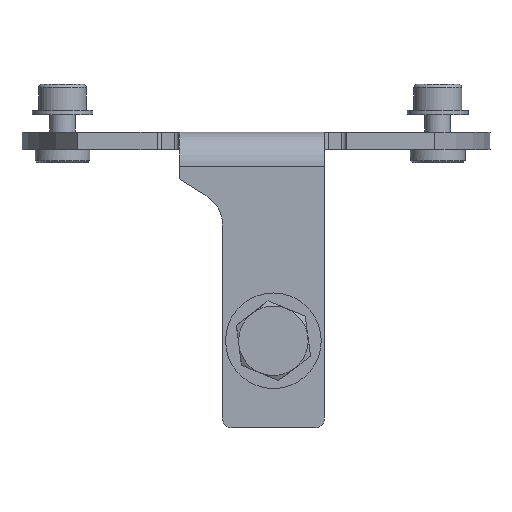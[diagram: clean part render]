
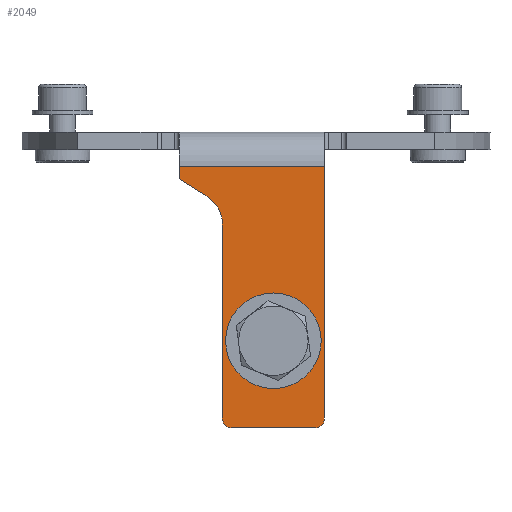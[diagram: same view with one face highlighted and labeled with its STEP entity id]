
A CAD part, left-side view. The second image highlights one B-rep face of the part: STEP entity #2049.
In plain terms, the highlighted planar face has unit normal (-1, 0, 0) as drawn and (0, 0, -1) by its records, which use the part's own axes.
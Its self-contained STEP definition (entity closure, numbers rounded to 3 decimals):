
#1436=LINE('',#7666,#1732);
#1437=LINE('',#7671,#1733);
#1438=LINE('',#7673,#1734);
#1439=LINE('',#7675,#1735);
#1440=LINE('',#7677,#1736);
#1441=LINE('',#7681,#1737);
#1732=VECTOR('',#5883,1.);
#1733=VECTOR('',#5886,1.);
#1734=VECTOR('',#5887,1.);
#1735=VECTOR('',#5888,1.);
#1736=VECTOR('',#5889,1.);
#1737=VECTOR('',#5892,1.);
#2049=ADVANCED_FACE('',(#2549,#2550),#2275,.F.);
#2275=PLANE('',#5260);
#2549=FACE_BOUND('',#2744,.T.);
#2550=FACE_BOUND('',#2745,.T.);
#2744=EDGE_LOOP('',(#3495));
#2745=EDGE_LOOP('',(#3496,#3497,#3498,#3499,#3500,#3501,#3502,#3503,#3504));
#3495=ORIENTED_EDGE('',*,*,#4768,.F.);
#3496=ORIENTED_EDGE('',*,*,#4769,.F.);
#3497=ORIENTED_EDGE('',*,*,#4770,.T.);
#3498=ORIENTED_EDGE('',*,*,#4771,.F.);
#3499=ORIENTED_EDGE('',*,*,#4772,.T.);
#3500=ORIENTED_EDGE('',*,*,#4773,.F.);
#3501=ORIENTED_EDGE('',*,*,#4774,.T.);
#3502=ORIENTED_EDGE('',*,*,#4775,.T.);
#3503=ORIENTED_EDGE('',*,*,#4776,.T.);
#3504=ORIENTED_EDGE('',*,*,#4777,.T.);
#4291=VERTEX_POINT('',#7665);
#4292=VERTEX_POINT('',#7667);
#4293=VERTEX_POINT('',#7668);
#4294=VERTEX_POINT('',#7670);
#4295=VERTEX_POINT('',#7672);
#4296=VERTEX_POINT('',#7674);
#4297=VERTEX_POINT('',#7676);
#4298=VERTEX_POINT('',#7678);
#4299=VERTEX_POINT('',#7680);
#4300=VERTEX_POINT('',#7682);
#4768=EDGE_CURVE('',#4291,#4291,#5051,.T.);
#4769=EDGE_CURVE('',#4292,#4293,#1436,.T.);
#4770=EDGE_CURVE('',#4292,#4294,#5052,.T.);
#4771=EDGE_CURVE('',#4295,#4294,#1437,.T.);
#4772=EDGE_CURVE('',#4295,#4296,#1438,.T.);
#4773=EDGE_CURVE('',#4297,#4296,#1439,.T.);
#4774=EDGE_CURVE('',#4297,#4298,#1440,.T.);
#4775=EDGE_CURVE('',#4298,#4299,#5053,.T.);
#4776=EDGE_CURVE('',#4299,#4300,#1441,.T.);
#4777=EDGE_CURVE('',#4300,#4293,#5054,.T.);
#5051=CIRCLE('',#5256,2.75);
#5052=CIRCLE('',#5257,1.);
#5053=CIRCLE('',#5258,4.);
#5054=CIRCLE('',#5259,1.);
#5256=AXIS2_PLACEMENT_3D('',#7664,#5881,#5882);
#5257=AXIS2_PLACEMENT_3D('',#7669,#5884,#5885);
#5258=AXIS2_PLACEMENT_3D('',#7679,#5890,#5891);
#5259=AXIS2_PLACEMENT_3D('',#7683,#5893,#5894);
#5260=AXIS2_PLACEMENT_3D('',#7684,#5895,#5896);
#5881=DIRECTION('',(0.,0.,-1.));
#5882=DIRECTION('',(-1.,0.,0.));
#5883=DIRECTION('',(0.,1.,0.));
#5884=DIRECTION('',(0.,0.,-1.));
#5885=DIRECTION('',(1.,0.,0.));
#5886=DIRECTION('',(1.,0.,0.));
#5887=DIRECTION('',(0.,1.,0.));
#5888=DIRECTION('',(-1.,0.,0.));
#5889=DIRECTION('',(0.525,-0.851,0.));
#5890=DIRECTION('',(0.,0.,1.));
#5891=DIRECTION('',(-1.,0.,0.));
#5892=DIRECTION('',(1.,0.,0.));
#5893=DIRECTION('',(0.,0.,-1.));
#5894=DIRECTION('',(1.,0.,0.));
#5895=DIRECTION('',(0.,0.,1.));
#5896=DIRECTION('',(1.,0.,0.));
#7664=CARTESIAN_POINT('',(53.159,-135.838,-58.71));
#7665=CARTESIAN_POINT('',(50.409,-135.838,-58.71));
#7666=CARTESIAN_POINT('',(63.159,-142.691,-58.71));
#7667=CARTESIAN_POINT('',(63.159,-140.691,-58.71));
#7668=CARTESIAN_POINT('',(63.159,-130.984,-58.71));
#7669=CARTESIAN_POINT('',(62.159,-140.691,-58.71));
#7670=CARTESIAN_POINT('',(62.159,-141.691,-58.71));
#7671=CARTESIAN_POINT('',(31.07,-141.691,-58.71));
#7672=CARTESIAN_POINT('',(33.159,-141.691,-58.71));
#7673=CARTESIAN_POINT('',(33.159,-142.691,-58.71));
#7674=CARTESIAN_POINT('',(33.159,-124.984,-58.71));
#7675=CARTESIAN_POINT('',(85.159,-124.984,-58.71));
#7676=CARTESIAN_POINT('',(34.542,-124.984,-58.71));
#7677=CARTESIAN_POINT('',(35.159,-125.984,-58.71));
#7678=CARTESIAN_POINT('',(36.455,-128.084,-58.71));
#7679=CARTESIAN_POINT('',(39.859,-125.984,-58.71));
#7680=CARTESIAN_POINT('',(39.859,-129.984,-58.71));
#7681=CARTESIAN_POINT('',(39.859,-129.984,-58.71));
#7682=CARTESIAN_POINT('',(62.159,-129.984,-58.71));
#7683=CARTESIAN_POINT('',(62.159,-130.984,-58.71));
#7684=CARTESIAN_POINT('',(0.,0.,-58.71));
